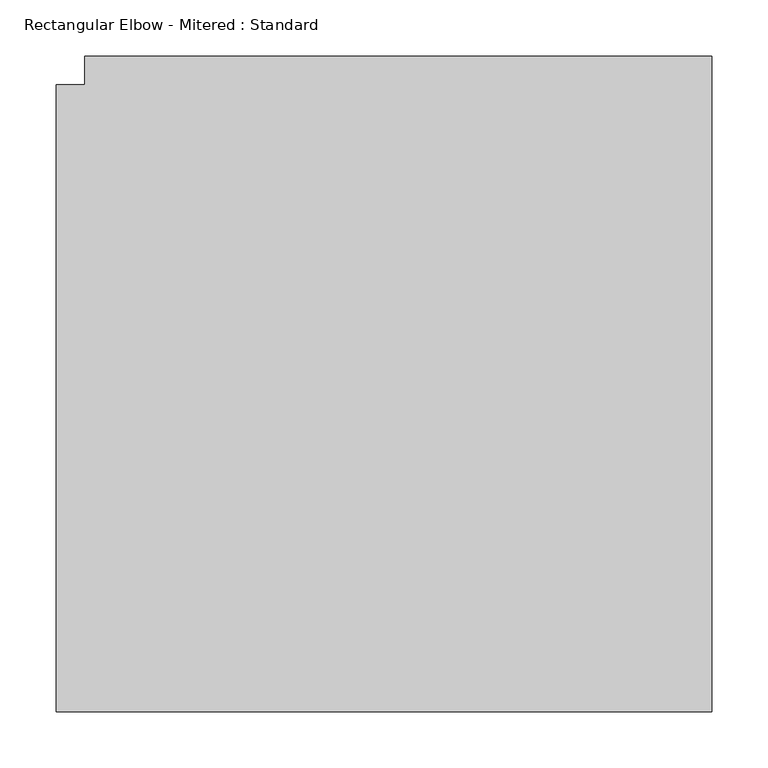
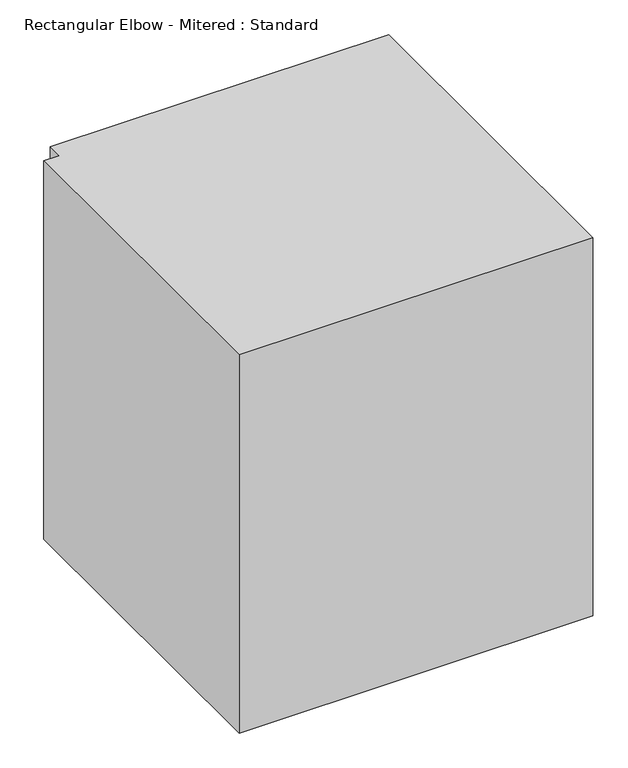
"""IFC4 building model written with IfcOpenShell, lengths in millimetres: duct fitting geometry, Rectangular Elbow - Mitered : Standard."""

from ifc_helpers import new_model, si_unit, frame, origin, place, context, project, spatial, polyline, outline, extrude, source, transform, mapped, element, save


def rectangular_elbow_mitered_standard_e7d4be16(model_context):
    return source(origin(), model_context, "Body", "SweptSolid", [
        extrude(outline(polyline([(-304.8, -279.4), (-304.8, 279.4), (-279.4, 279.4), (-279.4, 304.8), (279.4, 304.8), (279.4, -279.4), (-304.8, -279.4)])), frame((0.0, 0.0, -330.2), z_axis=(0.0, 0.0, 1.0), x_axis=(1.0, 0.0, 0.0)), (0.0, 0.0, 1.0), 660.4),
    ])


if __name__ == "__main__":
    model = new_model("IFC4")
    model_context = context("Model", 3, world=origin())
    ifc_project = project(units=[si_unit("LENGTHUNIT", "METRE", prefix="MILLI")], contexts=[model_context])
    site = spatial("IfcSite", under=ifc_project)
    building = spatial("IfcBuilding", under=site)
    placement = place(None, origin())
    rectangular_elbow_mitered_standard_shape = rectangular_elbow_mitered_standard_e7d4be16(model_context)
    element("IfcDuctFitting", 1, ObjectType="Rectangular Elbow - Mitered : Standard", at=placement, inside=building, context=model_context, shape_type="MappedRepresentation", body=[
        mapped(rectangular_elbow_mitered_standard_shape, transform((0.0, 0.0, 0.0), x_axis=(1.0, 0.0, 0.0), y_axis=(0.0, 1.0, 0.0), z_axis=(0.0, 0.0, 1.0))),
    ])
    save(model, "model.ifc")
